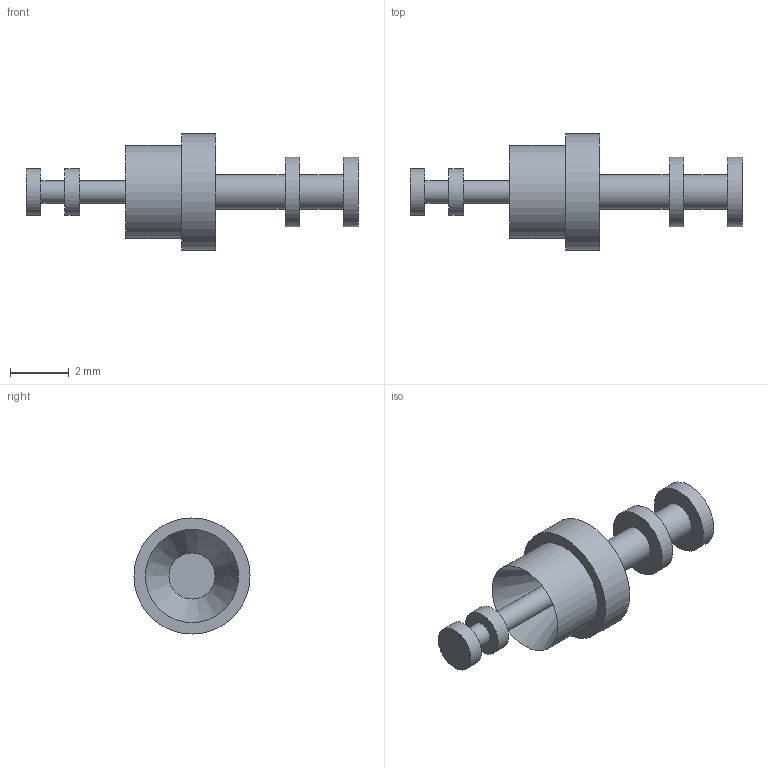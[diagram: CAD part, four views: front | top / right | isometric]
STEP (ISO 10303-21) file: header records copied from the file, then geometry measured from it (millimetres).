
FILE_DESCRIPTION(/* description */ (''),/* implementation_level */ '2;1');
FILE_NAME(/* name */ 'Z:\STEP folder\160-1035-01.ipt.stp',/* time_stamp */ '2016-12-07T10:45:51+00:00',/* author */ ('Paul Karlsons'),/* organization */ (''),/* preprocessor_version */ 'ST-DEVELOPER v15.2',/* originating_system */ 'Autodesk Inventor 2014',/* authorisation */ '');
FILE_SCHEMA (('AUTOMOTIVE_DESIGN { 1 0 10303 214 3 1 1 }'));
Length unit declared in the file: millimetre
Products named in the file (1): 160-1035-01
Bounding box: 11.32 x 3.96 x 3.96 mm (x, y, z)
Volume: 34.8 mm3; surface area: 120.8 mm2
Topology: 1 solids, 1 shells, 22 faces, 32 edges, 21 vertices
Faces by surface type: plane 11, cylinder 10, cone 1
Full cylindrical faces by diameter (mm): 0.762 x2, 1.194 x2, 1.575 x2, 2.36 x2, 3.175 x1, 3.96 x1
Entity records: 455 total; most frequent: DIRECTION 88, CARTESIAN_POINT 65, AXIS2_PLACEMENT_3D 44, EDGE_LOOP 42, ORIENTED_EDGE 42, FACE_BOUND 24, ADVANCED_FACE 22, CIRCLE 21
